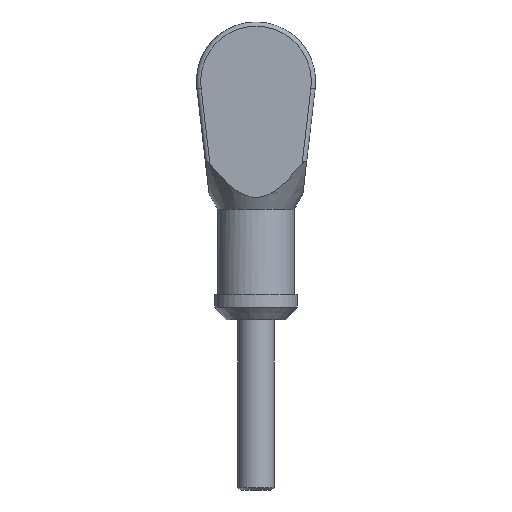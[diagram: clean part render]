
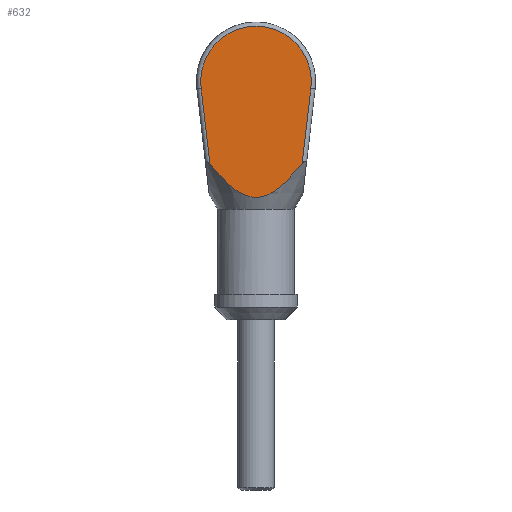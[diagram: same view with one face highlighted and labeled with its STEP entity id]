
A CAD part, front view. The second image highlights one B-rep face of the part: STEP entity #632.
In plain terms, the highlighted planar face has unit normal (0, -1, 0).
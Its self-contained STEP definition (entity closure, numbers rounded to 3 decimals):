
#632 = ADVANCED_FACE( '', ( #1707 ), #1708, .T. );
#1707 = FACE_OUTER_BOUND( '', #3286, .T. );
#1708 = PLANE( '', #3287 );
#3286 = EDGE_LOOP( '', ( #6380, #6381, #6382, #6383 ) );
#3287 = AXIS2_PLACEMENT_3D( '', #6384, #6385, #6386 );
#6380 = ORIENTED_EDGE( '', *, *, #10723, .T. );
#6381 = ORIENTED_EDGE( '', *, *, #10724, .T. );
#6382 = ORIENTED_EDGE( '', *, *, #10725, .F. );
#6383 = ORIENTED_EDGE( '', *, *, #10443, .T. );
#6384 = CARTESIAN_POINT( '', ( 0., 0., 0. ) );
#6385 = DIRECTION( '', ( 0., -1., 0. ) );
#6386 = DIRECTION( '', ( 0., 0., -1. ) );
#10443 = EDGE_CURVE( '', #12217, #12221, #12223, .T. );
#10723 = EDGE_CURVE( '', #12221, #12717, #12718, .T. );
#10724 = EDGE_CURVE( '', #12717, #12719, #12720, .T. );
#10725 = EDGE_CURVE( '', #12217, #12719, #12721, .T. );
#12217 = VERTEX_POINT( '', #14854 );
#12221 = VERTEX_POINT( '', #14870 );
#12223 = LINE( '', #14872, #14873 );
#12717 = VERTEX_POINT( '', #15590 );
#12718 = CIRCLE( '', #15591, 6.5 );
#12719 = VERTEX_POINT( '', #15592 );
#12720 = LINE( '', #15593, #15594 );
#12721 = B_SPLINE_CURVE_WITH_KNOTS( '', 3, ( #15595, #15596, #15597, #15598, #15599, #15600, #15601, #15602, #15603, #15604, #15605, #15606, #15607, #15608, #15609, #15610, #15611, #15612, #15613, #15614, #15615, #15616, #15617, #15618, #15619, #15620, #15621, #15622 ), .UNSPECIFIED., .F., .F., ( 4, 2, 2, 2, 2, 2, 2, 2, 2, 2, 2, 2, 2, 4 ), ( 0.028, 0.03, 0.031, 0.032, 0.033, 0.034, 0.034, 0.035, 0.036, 0.036, 0.037, 0.038, 0.04, 0.042 ), .UNSPECIFIED. );
#14854 = CARTESIAN_POINT( '', ( 5.418, 0., -9.667 ) );
#14870 = CARTESIAN_POINT( '', ( 6.456, 0., -0.752 ) );
#14872 = CARTESIAN_POINT( '', ( 6.456, 0., -0.752 ) );
#14873 = VECTOR( '', #20443, 1000. );
#15590 = CARTESIAN_POINT( '', ( -6.456, 0., -0.752 ) );
#15591 = AXIS2_PLACEMENT_3D( '', #20748, #20749, #20750 );
#15592 = CARTESIAN_POINT( '', ( -5.418, 0., -9.667 ) );
#15593 = CARTESIAN_POINT( '', ( -6.456, 0., -0.752 ) );
#15594 = VECTOR( '', #20751, 1000. );
#15595 = CARTESIAN_POINT( '', ( 5.418, 0., -9.667 ) );
#15596 = CARTESIAN_POINT( '', ( 5.055, 0., -10.116 ) );
#15597 = CARTESIAN_POINT( '', ( 4.682, 0., -10.556 ) );
#15598 = CARTESIAN_POINT( '', ( 3.904, 0., -11.405 ) );
#15599 = CARTESIAN_POINT( '', ( 3.499, 0., -11.814 ) );
#15600 = CARTESIAN_POINT( '', ( 2.844, 0., -12.382 ) );
#15601 = CARTESIAN_POINT( '', ( 2.617, 0., -12.563 ) );
#15602 = CARTESIAN_POINT( '', ( 2.145, 0., -12.898 ) );
#15603 = CARTESIAN_POINT( '', ( 1.901, 0., -13.051 ) );
#15604 = CARTESIAN_POINT( '', ( 1.384, 0., -13.316 ) );
#15605 = CARTESIAN_POINT( '', ( 1.117, 0., -13.425 ) );
#15606 = CARTESIAN_POINT( '', ( 0.703, 0., -13.537 ) );
#15607 = CARTESIAN_POINT( '', ( 0.562, 0., -13.566 ) );
#15608 = CARTESIAN_POINT( '', ( 0.276, 0., -13.605 ) );
#15609 = CARTESIAN_POINT( '', ( 0.129, 0., -13.615 ) );
#15610 = CARTESIAN_POINT( '', ( -0.305, 0., -13.613 ) );
#15611 = CARTESIAN_POINT( '', ( -0.588, 0., -13.57 ) );
#15612 = CARTESIAN_POINT( '', ( -1.007, 0., -13.453 ) );
#15613 = CARTESIAN_POINT( '', ( -1.145, 0., -13.405 ) );
#15614 = CARTESIAN_POINT( '', ( -1.413, 0., -13.296 ) );
#15615 = CARTESIAN_POINT( '', ( -1.544, 0., -13.235 ) );
#15616 = CARTESIAN_POINT( '', ( -2.181, 0., -12.903 ) );
#15617 = CARTESIAN_POINT( '', ( -2.65, 0., -12.551 ) );
#15618 = CARTESIAN_POINT( '', ( -3.515, 0., -11.798 ) );
#15619 = CARTESIAN_POINT( '', ( -3.916, 0., -11.392 ) );
#15620 = CARTESIAN_POINT( '', ( -4.688, 0., -10.55 ) );
#15621 = CARTESIAN_POINT( '', ( -5.058, 0., -10.113 ) );
#15622 = CARTESIAN_POINT( '', ( -5.418, 0., -9.667 ) );
#20443 = DIRECTION( '', ( 0.116, 0., 0.993 ) );
#20748 = CARTESIAN_POINT( '', ( 0., 0., 0. ) );
#20749 = DIRECTION( '', ( 0., -1., 0. ) );
#20750 = DIRECTION( '', ( 0., 0., -1. ) );
#20751 = DIRECTION( '', ( 0.116, 0., -0.993 ) );
